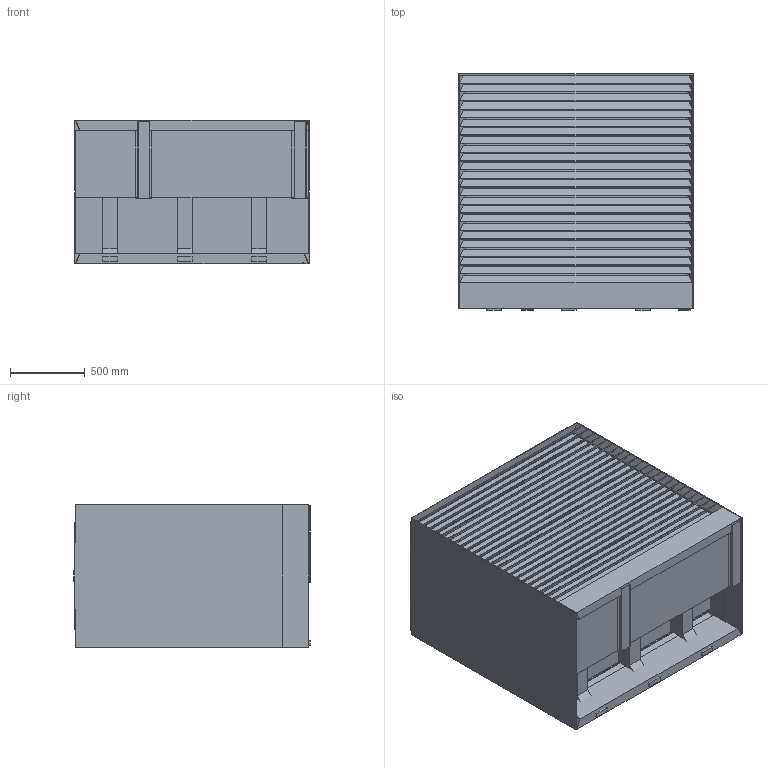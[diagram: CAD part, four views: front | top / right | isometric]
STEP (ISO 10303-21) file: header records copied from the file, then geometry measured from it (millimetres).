
FILE_DESCRIPTION (( 'STEP AP214' ), '1' );
FILE_NAME ('ADAPT MAX 10035_BIM.STEP', '2024-08-21T07:21:16', ( '' ), ( '' ), 'SwSTEP 2.0', 'SolidWorks 2021', '' );
FILE_SCHEMA (( 'AUTOMOTIVE_DESIGN' ));
Length unit declared in the file: millimetre
Products named in the file (1): ADAPT MAX 10035_BIM
Bounding box: 1575 x 1585 x 960 mm (x, y, z)
Volume: 1896674353.2 mm3; surface area: 34511472.8 mm2
Topology: 56 solids, 56 shells, 550 faces, 1314 edges, 876 vertices
Faces by surface type: plane 522, cylinder 28
Entity records: 20760 total; most frequent: CARTESIAN_POINT 2777, ORIENTED_EDGE 2628, DIRECTION 2448, EDGE_CURVE 1314, VECTOR 1258, LINE 1258, VERTEX_POINT 876, AXIS2_PLACEMENT_3D 595
